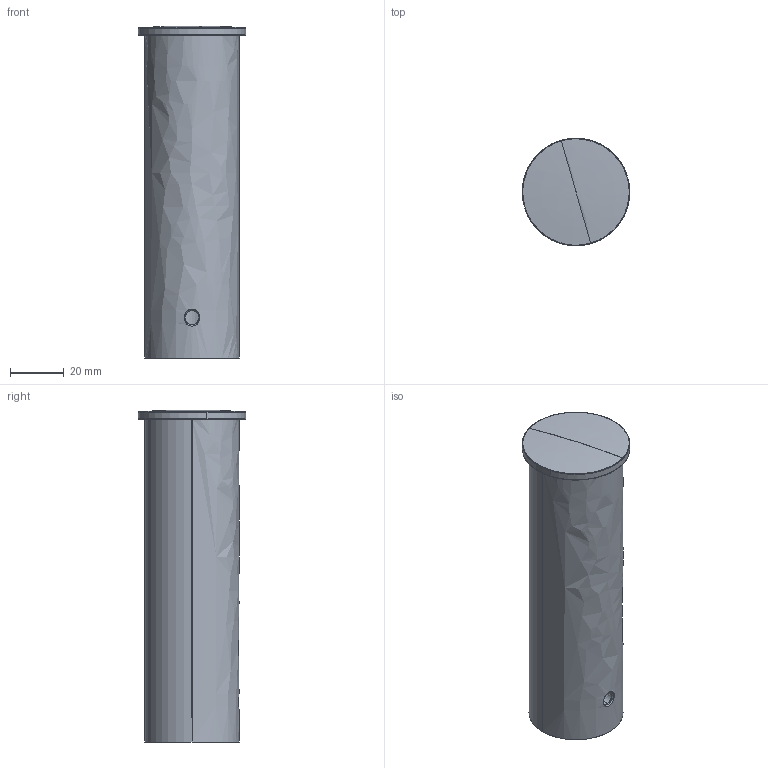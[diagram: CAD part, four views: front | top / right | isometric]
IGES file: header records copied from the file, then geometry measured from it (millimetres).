
Start section: SolidWorks IGES file using analytic representation for surfaces
Global section: file name: G:\Projects\New project\For Marketing\IGS\IGS\2015-12-18\2380658VW.IGS; native system: SolidWorks 2010; preprocessor: SolidWorks 2010; author: linda; date: 151214.161206; units: millimetre
Bounding box: 39.97 x 40 x 123.5 mm (x, y, z)
Surface area: 31847.6 mm2 (no closed solid volume)
Topology: 0 solids, 0 shells, 31 faces, 704 edges, 703 vertices
Faces by surface type: revolution 24, bspline 7
